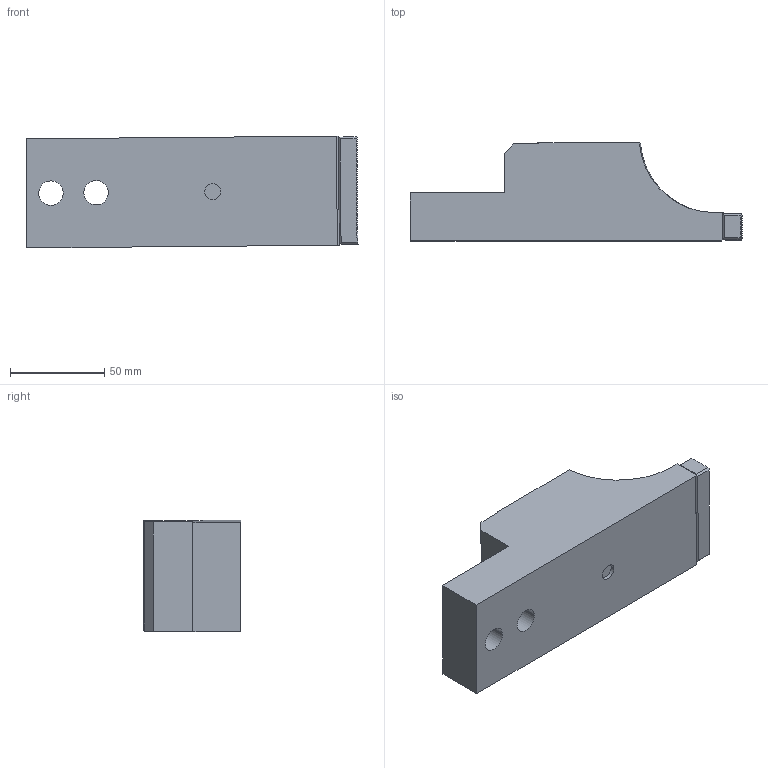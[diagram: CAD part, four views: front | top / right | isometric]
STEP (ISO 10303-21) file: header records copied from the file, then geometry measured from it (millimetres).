
FILE_DESCRIPTION((''),'2;1');
FILE_NAME('FG_WH_EZ_LCMP2NP001','2026-06-07T14:06:05',('Admin'),(''),'CREO PARAMETRIC BY PTC INC, 2025010','CREO PARAMETRIC BY PTC INC, 2025010','');
FILE_SCHEMA(('CONFIG_CONTROL_DESIGN'));
Length unit declared in the file: metre
Products named in the file (1): FG_WH_EZ_LCMP2NP001
Bounding box: 176.49 x 52 x 59.44 mm (x, y, z)
Volume: 339387.7 mm3; surface area: 42622.1 mm2
Topology: 1 solids, 5 shells, 994 faces, 2117 edges, 1140 vertices
Faces by surface type: plane 945, cylinder 37, cone 6, torus 6
Entity records: 25235 total; most frequent: CARTESIAN_POINT 4463, ORIENTED_EDGE 4226, DIRECTION 4103, EDGE_CURVE 2113, VECTOR 1915, LINE 1915, VERTEX_POINT 1140, AXIS2_PLACEMENT_3D 1094
